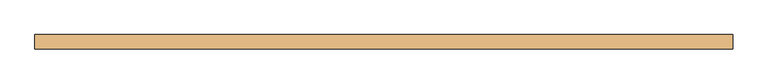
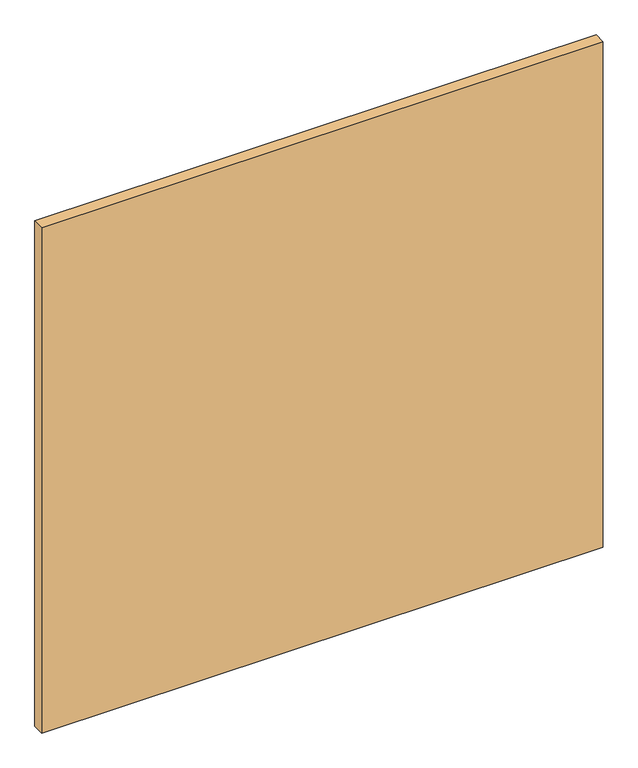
"""IFC4 building model written with IfcOpenShell, lengths in millimetres: door geometry, Puerta elevada articulada : Puerta Plagadiza 2.47x2.35 m."""

from ifc_helpers import new_model, si_unit, origin, origin_with_axes, place, context, project, spatial, polyline, outline, extrude, source, transform, mapped, element, save


def door_b4b427b3(model_context):
    return source(origin(), model_context, "Body", "SweptSolid", [
        extrude(outline(polyline([(1235.0, -75.0), (1235.0, -126.0), (-1235.0, -126.0), (-1235.0, -75.0), (1235.0, -75.0)])), origin_with_axes(), (0.0, 0.0, 1.0), 2350.0),
    ])


if __name__ == "__main__":
    model = new_model("IFC4")
    model_context = context("Model", 3, world=origin())
    ifc_project = project(units=[si_unit("LENGTHUNIT", "METRE", prefix="MILLI")], contexts=[model_context])
    site = spatial("IfcSite", under=ifc_project)
    building = spatial("IfcBuilding", under=site)
    placement = place(None, origin())
    door_shape = door_b4b427b3(model_context)
    element("IfcDoor", 1, ObjectType="Puerta elevada articulada : Puerta Plagadiza 2.47x2.35 m", at=placement, inside=building, context=model_context, shape_type="MappedRepresentation", body=[
        mapped(door_shape, transform((0.0, 0.0, 0.0), x_axis=(1.0, 0.0, 0.0), y_axis=(0.0, 1.0, 0.0), z_axis=(0.0, 0.0, 1.0))),
    ])
    save(model, "model.ifc")
